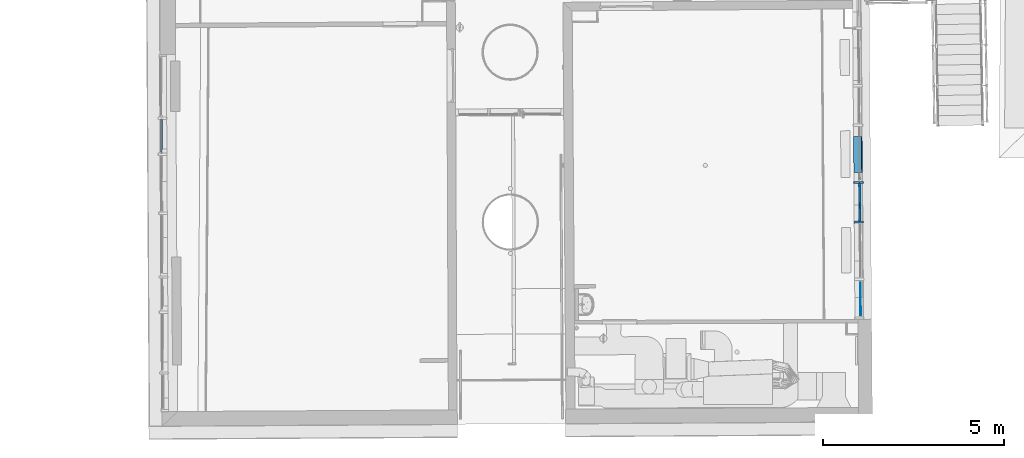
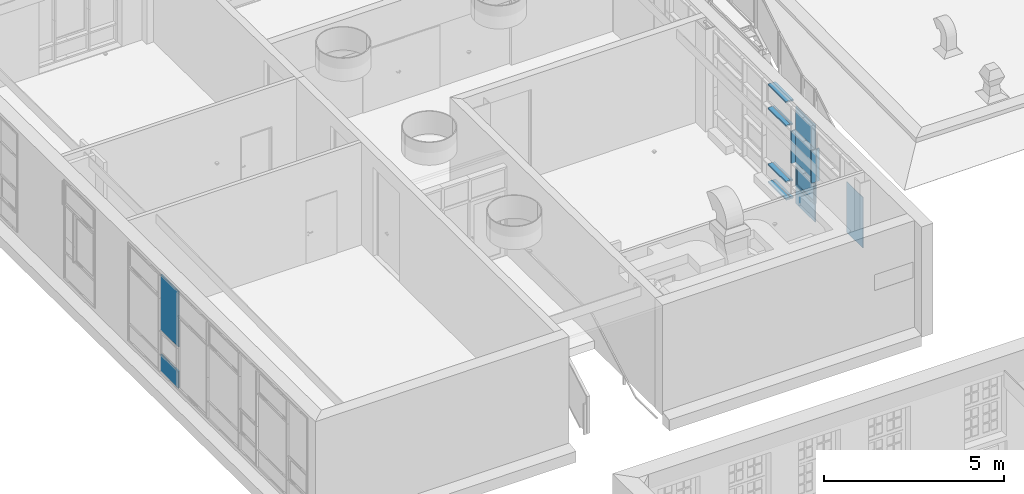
# One storey, part 95 of 158: 14 building element parts, 2 elements without a shape of their own.
"""IFC2X3 building model written with IfcOpenShell, lengths in metres."""

from ifc_helpers import new_model, entity, si_unit, converted_unit, derived_unit, money_unit, direction, frame, origin_with_axes, place, context, subcontext, project, spatial, faceted_brep, material, type_object, element, aggregate, save


model = new_model("IFC2X3")

# Units and contexts
model_context = context("Model", 3, precision=1e-05, world=origin_with_axes(), true_north=direction((0.0, 1.0)))
body_context = subcontext(model_context, "Body", "Model", "MODEL_VIEW")
ifc_project = project(units=[si_unit("LENGTHUNIT", "METRE"), si_unit("AREAUNIT", "SQUARE_METRE"), si_unit("VOLUMEUNIT", "CUBIC_METRE"), converted_unit("PLANEANGLEUNIT", "DEGREE", entity("IfcPlaneAngleMeasure", 0.0174532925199), si_unit("PLANEANGLEUNIT", "RADIAN"), dimensions=[0, 0, 0, 0, 0, 0, 0]), money_unit("EUR"), converted_unit("TIMEUNIT", "Year", entity("IfcTimeMeasure", 31556926.0), si_unit("TIMEUNIT", "SECOND"), dimensions=[0, 0, 1, 0, 0, 0, 0]), si_unit("MASSUNIT", "GRAM", prefix="KILO"), si_unit("THERMODYNAMICTEMPERATUREUNIT", "DEGREE_CELSIUS"), si_unit("LUMINOUSINTENSITYUNIT", "LUMEN"), si_unit("ENERGYUNIT", "JOULE", prefix="MEGA"), derived_unit("THERMALCONDUCTANCEUNIT", [(si_unit("POWERUNIT", "WATT"), 1), (si_unit("LENGTHUNIT", "METRE"), -1), (si_unit("THERMODYNAMICTEMPERATUREUNIT", "KELVIN"), -1)]), derived_unit("SPECIFICHEATCAPACITYUNIT", [(si_unit("ENERGYUNIT", "JOULE"), 1), (si_unit("MASSUNIT", "GRAM", prefix="KILO"), -1), (si_unit("THERMODYNAMICTEMPERATUREUNIT", "KELVIN"), -1)]), derived_unit("MASSDENSITYUNIT", [(si_unit("MASSUNIT", "GRAM", prefix="KILO"), 1), (si_unit("VOLUMEUNIT", "CUBIC_METRE"), -1)])], contexts=[model_context])

# Site, building, storey
site_placement = place(None, origin_with_axes())
site = spatial("IfcSite", under=ifc_project, at=site_placement, Name="Gelände", CompositionType="ELEMENT")
building_placement = place(site_placement, origin_with_axes())
building = spatial("IfcBuilding", under=site, at=building_placement, Name="Gebäude", CompositionType="ELEMENT")
storey_placement = place(building_placement, origin_with_axes())
storey = spatial("IfcBuildingStorey", under=building, at=storey_placement, Name="ERDGESCHOSS", CompositionType="ELEMENT", Elevation=0.0)

# Proxy, building element parts
building_element_proxy_type = type_object("IfcBuildingElementProxyType", Name="Fassadentyp", PredefinedType="NOTDEFINED")
proxy_1_placement = place(storey_placement, frame((-15.5457352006, 40.9565245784, 1.34043905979), z_axis=(0.0, 0.0, 1.0), x_axis=(1.0, 0.0, 0.0)))
proxy_1 = element("IfcBuildingElementProxy", 1, at=proxy_1_placement, inside=storey, type_object=building_element_proxy_type, Name="Fassade-002")
ifc_material_1 = material(Name="53_Metall, Aluminium")
building_element_part_1_placement = place(proxy_1_placement, origin_with_axes())
building_element_part_1 = element("IfcBuildingElementPart", 2, at=building_element_part_1_placement, material=ifc_material_1, Name="53_Metall, Aluminium", context=body_context, shape_type="Brep", body=[
    faceted_brep([(0.0564311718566, -3.39674136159, 0.644999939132), (0.0614310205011, -3.39670245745, 0.644999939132), (0.0695733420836, -4.44313017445, 0.644999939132), (0.0645734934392, -4.44316907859, 0.644999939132), (0.0567813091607, -3.44173999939, 0.689999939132), (0.0617811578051, -3.44170109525, 0.689999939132), (0.0692232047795, -4.39813153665, 0.689999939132), (0.0642233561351, -4.39817044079, 0.689999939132)], [[[0, 1, 2, 3]], [[4, 5, 1, 0]], [[1, 5, 6, 2]], [[3, 2, 6, 7]], [[0, 3, 7, 4]], [[7, 6, 5, 4]]]),
    faceted_brep([(0.0645734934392, -4.44316907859, 0.644999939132), (0.0695733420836, -4.44313017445, 0.644999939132), (0.0695733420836, -4.44313017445, 1.39810935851), (0.0645734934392, -4.44316907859, 1.39810935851), (0.0642233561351, -4.39817044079, 0.689999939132), (0.0692232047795, -4.39813153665, 0.689999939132), (0.0692232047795, -4.39813153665, 1.35310935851), (0.0642233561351, -4.39817044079, 1.35310935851)], [[[0, 1, 2, 3]], [[4, 5, 1, 0]], [[1, 5, 6, 2]], [[3, 2, 6, 7]], [[0, 3, 7, 4]], [[7, 6, 5, 4]]]),
    faceted_brep([(0.0564311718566, -3.39674136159, 1.39810935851), (0.0614310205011, -3.39670245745, 1.39810935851), (0.0617811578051, -3.44170109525, 1.35310935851), (0.0567813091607, -3.44173999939, 1.35310935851), (0.0645734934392, -4.44316907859, 1.39810935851), (0.0695733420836, -4.44313017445, 1.39810935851), (0.0692232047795, -4.39813153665, 1.35310935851), (0.0642233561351, -4.39817044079, 1.35310935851)], [[[0, 1, 2, 3]], [[4, 5, 1, 0]], [[1, 5, 6, 2]], [[3, 2, 6, 7]], [[0, 3, 7, 4]], [[7, 6, 5, 4]]]),
    faceted_brep([(0.0564311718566, -3.39674136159, 0.644999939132), (0.0614310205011, -3.39670245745, 0.644999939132), (0.0617811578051, -3.44170109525, 0.689999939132), (0.0567813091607, -3.44173999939, 0.689999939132), (0.0564311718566, -3.39674136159, 1.39810935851), (0.0614310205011, -3.39670245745, 1.39810935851), (0.0617811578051, -3.44170109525, 1.35310935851), (0.0567813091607, -3.44173999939, 1.35310935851)], [[[0, 1, 2, 3]], [[4, 5, 1, 0]], [[1, 5, 6, 2]], [[3, 2, 6, 7]], [[0, 3, 7, 4]], [[7, 6, 5, 4]]]),
    faceted_brep([(0.00643268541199, -3.39713040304, 0.644999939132), (0.0564311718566, -3.39674136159, 0.644999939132), (0.0645734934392, -4.44316907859, 0.644999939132), (0.0145750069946, -4.44355812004, 0.644999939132), (0.00658830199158, -3.41712979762, 0.664999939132), (0.0565867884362, -3.41674075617, 0.664999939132), (0.0644178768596, -4.42316968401, 0.664999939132), (0.014419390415, -4.42355872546, 0.664999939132)], [[[0, 1, 2, 3]], [[4, 5, 1, 0]], [[1, 5, 6, 2]], [[3, 2, 6, 7]], [[0, 3, 7, 4]], [[7, 6, 5, 4]]]),
    faceted_brep([(0.0145750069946, -4.44355812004, 0.644999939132), (0.0645734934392, -4.44316907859, 0.644999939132), (0.0645734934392, -4.44316907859, 1.39810935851), (0.0145750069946, -4.44355812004, 1.39810935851), (0.014419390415, -4.42355872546, 0.664999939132), (0.0644178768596, -4.42316968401, 0.664999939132), (0.0644178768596, -4.42316968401, 1.37810935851), (0.014419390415, -4.42355872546, 1.37810935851)], [[[0, 1, 2, 3]], [[4, 5, 1, 0]], [[1, 5, 6, 2]], [[3, 2, 6, 7]], [[0, 3, 7, 4]], [[7, 6, 5, 4]]]),
    faceted_brep([(0.00643268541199, -3.39713040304, 1.39810935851), (0.0564311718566, -3.39674136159, 1.39810935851), (0.0565867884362, -3.41674075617, 1.37810935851), (0.00658830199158, -3.41712979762, 1.37810935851), (0.0145750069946, -4.44355812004, 1.39810935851), (0.0645734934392, -4.44316907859, 1.39810935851), (0.0644178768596, -4.42316968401, 1.37810935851), (0.014419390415, -4.42355872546, 1.37810935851)], [[[0, 1, 2, 3]], [[4, 5, 1, 0]], [[1, 5, 6, 2]], [[3, 2, 6, 7]], [[0, 3, 7, 4]], [[7, 6, 5, 4]]]),
    faceted_brep([(0.00643268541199, -3.39713040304, 0.644999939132), (0.0564311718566, -3.39674136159, 0.644999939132), (0.0565867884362, -3.41674075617, 0.664999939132), (0.00658830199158, -3.41712979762, 0.664999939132), (0.00643268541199, -3.39713040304, 1.39810935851), (0.0564311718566, -3.39674136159, 1.39810935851), (0.0565867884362, -3.41674075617, 1.37810935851), (0.00658830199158, -3.41712979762, 1.37810935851)], [[[0, 1, 2, 3]], [[4, 5, 1, 0]], [[1, 5, 6, 2]], [[3, 2, 6, 7]], [[0, 3, 7, 4]], [[7, 6, 5, 4]]]),
    faceted_brep([(0.00631597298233, -3.38213085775, 0.629999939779), (0.046314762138, -3.3818196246, 0.629999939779), (0.0546905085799, -4.45824643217, 0.629999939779), (0.0146917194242, -4.45855766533, 0.629999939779), (0.00643268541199, -3.39713040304, 0.644999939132), (0.0464314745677, -3.39681916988, 0.644999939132), (0.0545737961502, -4.44324688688, 0.644999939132), (0.0145750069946, -4.44355812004, 0.644999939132)], [[[0, 1, 2, 3]], [[4, 5, 1, 0]], [[1, 5, 6, 2]], [[3, 2, 6, 7]], [[0, 3, 7, 4]], [[7, 6, 5, 4]]]),
    faceted_brep([(0.0146917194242, -4.45855766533, 0.629999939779), (0.0546905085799, -4.45824643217, 0.629999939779), (0.0546905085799, -4.45824643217, 1.41310935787), (0.0146917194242, -4.45855766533, 1.41310935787), (0.0145750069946, -4.44355812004, 0.644999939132), (0.0545737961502, -4.44324688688, 0.644999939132), (0.0545737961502, -4.44324688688, 1.39810935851), (0.0145750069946, -4.44355812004, 1.39810935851)], [[[0, 1, 2, 3]], [[4, 5, 1, 0]], [[1, 5, 6, 2]], [[3, 2, 6, 7]], [[0, 3, 7, 4]], [[7, 6, 5, 4]]]),
    faceted_brep([(0.0146917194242, -4.45855766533, 1.41310935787), (0.0546905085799, -4.45824643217, 1.41310935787), (0.046314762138, -3.3818196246, 1.41310935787), (0.00631597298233, -3.38213085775, 1.41310935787), (0.0145750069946, -4.44355812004, 1.39810935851), (0.0545737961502, -4.44324688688, 1.39810935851), (0.0464314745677, -3.39681916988, 1.39810935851), (0.00643268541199, -3.39713040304, 1.39810935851)], [[[0, 1, 2, 3]], [[4, 5, 1, 0]], [[1, 5, 6, 2]], [[3, 2, 6, 7]], [[0, 3, 7, 4]], [[7, 6, 5, 4]]]),
    faceted_brep([(0.00631597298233, -3.38213085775, 1.41310935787), (0.046314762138, -3.3818196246, 1.41310935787), (0.046314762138, -3.3818196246, 0.629999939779), (0.00631597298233, -3.38213085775, 0.629999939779), (0.00643268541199, -3.39713040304, 1.39810935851), (0.0464314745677, -3.39681916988, 1.39810935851), (0.0464314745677, -3.39681916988, 0.644999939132), (0.00643268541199, -3.39713040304, 0.644999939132)], [[[0, 1, 2, 3]], [[4, 5, 1, 0]], [[1, 5, 6, 2]], [[3, 2, 6, 7]], [[0, 3, 7, 4]], [[7, 6, 5, 4]]]),
    faceted_brep([(0.0569369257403, -3.46173939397, 0.709999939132), (0.0569369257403, -3.46173939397, 1.33310935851), (0.0019385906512, -3.46216733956, 1.33310935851), (0.0019385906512, -3.46216733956, 0.709999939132), (0.0565867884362, -3.41674075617, 0.664999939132), (0.0565867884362, -3.41674075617, 1.37810935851), (0.00158845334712, -3.41716870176, 1.37810935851), (0.00158845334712, -3.41716870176, 0.664999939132)], [[[0, 1, 2, 3]], [[0, 4, 5, 1]], [[1, 5, 6, 2]], [[3, 2, 6, 7]], [[4, 0, 3, 7]], [[5, 4, 7, 6]]]),
    faceted_brep([(0.0644178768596, -4.42316968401, 0.664999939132), (0.0644178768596, -4.42316968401, 1.37810935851), (0.00941954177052, -4.42359762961, 1.37810935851), (0.00941954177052, -4.42359762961, 0.664999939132), (0.0640677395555, -4.37817104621, 0.709999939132), (0.0640677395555, -4.37817104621, 1.33310935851), (0.00906940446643, -4.37859899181, 1.33310935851), (0.00906940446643, -4.37859899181, 0.709999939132)], [[[0, 1, 2, 3]], [[0, 4, 5, 1]], [[1, 5, 6, 2]], [[3, 2, 6, 7]], [[4, 0, 3, 7]], [[5, 4, 7, 6]]]),
    faceted_brep([(0.0644178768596, -4.42316968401, 0.664999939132), (0.0640677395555, -4.37817104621, 0.709999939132), (0.00906940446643, -4.37859899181, 0.709999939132), (0.00941954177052, -4.42359762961, 0.664999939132), (0.0565867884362, -3.41674075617, 0.664999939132), (0.0569369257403, -3.46173939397, 0.709999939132), (0.0019385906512, -3.46216733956, 0.709999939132), (0.00158845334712, -3.41716870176, 0.664999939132)], [[[0, 1, 2, 3]], [[0, 4, 5, 1]], [[1, 5, 6, 2]], [[3, 2, 6, 7]], [[4, 0, 3, 7]], [[5, 4, 7, 6]]]),
    faceted_brep([(0.0565867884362, -3.41674075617, 1.37810935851), (0.0569369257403, -3.46173939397, 1.33310935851), (0.0019385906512, -3.46216733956, 1.33310935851), (0.00158845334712, -3.41716870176, 1.37810935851), (0.0644178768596, -4.42316968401, 1.37810935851), (0.0640677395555, -4.37817104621, 1.33310935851), (0.00906940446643, -4.37859899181, 1.33310935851), (0.00941954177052, -4.42359762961, 1.37810935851)], [[[0, 1, 2, 3]], [[0, 4, 5, 1]], [[1, 5, 6, 2]], [[3, 2, 6, 7]], [[4, 0, 3, 7]], [[5, 4, 7, 6]]]),
])
ifc_material_2 = material(Name="45_Glas, Normalglas")
building_element_part_2_placement = place(proxy_1_placement, origin_with_axes())
building_element_part_2 = element("IfcBuildingElementPart", 3, at=building_element_part_2_placement, material=ifc_material_2, Name="45_Glas, Normalglas", context=body_context, shape_type="Brep", body=[
    faceted_brep([(0.0469372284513, -3.46181720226, 0.709999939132), (0.0540680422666, -4.3782488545, 0.709999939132), (0.0380685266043, -4.37837334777, 0.709999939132), (0.0309377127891, -3.46194169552, 0.709999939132), (0.0469372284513, -3.46181720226, 1.33310935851), (0.0540680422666, -4.3782488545, 1.33310935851), (0.0380685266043, -4.37837334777, 1.33310935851), (0.0309377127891, -3.46194169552, 1.33310935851)], [[[0, 1, 2, 3]], [[0, 4, 5, 1]], [[1, 5, 6, 2]], [[3, 2, 6, 7]], [[4, 0, 3, 7]], [[5, 4, 7, 6]]]),
])
building_element_part_3_placement = place(proxy_1_placement, origin_with_axes())
building_element_part_3 = element("IfcBuildingElementPart", 4, at=building_element_part_3_placement, material=ifc_material_2, Name="45_Glas, Normalglas", context=body_context, shape_type="Brep", body=[
    faceted_brep([(0.0146917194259, -4.45855766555, 0.609999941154), (0.0546905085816, -4.45824643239, 0.609999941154), (0.0511226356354, -3.99971367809, 0.609999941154), (0.0111238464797, -4.00002491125, 0.609999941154), (0.0146917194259, -4.45855766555, 0.0349999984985), (0.0546905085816, -4.45824643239, 0.0349999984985), (0.0511226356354, -3.99971367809, 0.0349999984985), (0.046314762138, -3.3818196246, 0.0349999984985), (0.046314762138, -3.3818196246, 0.609999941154), (0.00631597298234, -3.38213085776, 0.609999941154), (0.00631597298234, -3.38213085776, 0.0349999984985), (0.0111238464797, -4.00002491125, 0.0349999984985)], [[[0, 1, 2, 3]], [[4, 5, 1, 0]], [[1, 5, 6, 7, 8, 2]], [[3, 2, 8, 9]], [[0, 3, 9, 10, 11, 4]], [[11, 6, 5, 4]], [[10, 7, 6, 11]], [[9, 8, 7, 10]]]),
])
building_element_part_4_placement = place(proxy_1_placement, origin_with_axes())
building_element_part_4 = element("IfcBuildingElementPart", 5, at=building_element_part_4_placement, material=ifc_material_2, Name="45_Glas, Normalglas", context=body_context, shape_type="Brep", body=[
    faceted_brep([(0.0146917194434, -4.45855766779, 2.50999994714), (0.0546905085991, -4.45824643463, 2.50999994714), (0.051122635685, -3.99971368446, 2.50999994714), (0.0111238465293, -4.00002491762, 2.50999994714), (0.0146917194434, -4.45855766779, 1.43310934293), (0.0546905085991, -4.45824643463, 1.43310934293), (0.051122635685, -3.99971368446, 1.43310934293), (0.0463147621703, -3.38181962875, 1.43310935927), (0.0463147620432, -3.38181961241, 2.50999994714), (0.00631597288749, -3.38213084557, 2.50999994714), (0.00631597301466, -3.38213086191, 1.43310935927), (0.0111238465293, -4.00002491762, 1.43310934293)], [[[0, 1, 2, 3]], [[4, 5, 1, 0]], [[1, 5, 6, 7, 8, 2]], [[3, 2, 8, 9]], [[0, 3, 9, 10, 11, 4]], [[11, 6, 5, 4]], [[10, 7, 6, 11]], [[9, 8, 7, 10]]]),
])
building_element_part_5_placement = place(proxy_1_placement, origin_with_axes())
building_element_part_5 = element("IfcBuildingElementPart", 6, at=building_element_part_5_placement, material=ifc_material_2, Name="45_Glas, Normalglas", context=body_context, shape_type="Brep", body=[
    faceted_brep([(0.0146917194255, -4.45855766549, 3.31499987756), (0.0546905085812, -4.45824643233, 3.31499987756), (0.0511226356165, -3.99971367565, 3.31499987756), (0.0111238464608, -4.00002490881, 3.31499987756), (0.0146917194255, -4.45855766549, 2.52999993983), (0.0546905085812, -4.45824643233, 2.52999993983), (0.0511226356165, -3.99971367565, 2.52999993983), (0.0463147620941, -3.38181961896, 2.52999993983), (0.0463147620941, -3.38181961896, 3.31499987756), (0.00631597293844, -3.38213085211, 3.31499987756), (0.00631597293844, -3.38213085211, 2.52999993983), (0.0111238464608, -4.00002490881, 2.52999993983)], [[[0, 1, 2, 3]], [[4, 5, 1, 0]], [[1, 5, 6, 7, 8, 2]], [[3, 2, 8, 9]], [[0, 3, 9, 10, 11, 4]], [[11, 6, 5, 4]], [[10, 7, 6, 11]], [[9, 8, 7, 10]]]),
])
building_element_part_6_placement = place(proxy_1_placement, origin_with_axes())
building_element_part_6 = element("IfcBuildingElementPart", 7, at=building_element_part_6_placement, material=ifc_material_2, Name="45_Glas, Normalglas", context=body_context, shape_type="Brep", body=[
    faceted_brep([(0.0678002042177, -6.14306675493, 0.709999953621), (0.0748025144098, -7.04298349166, 0.709999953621), (0.0588029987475, -7.04310798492, 0.709999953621), (0.0518006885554, -6.14319124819, 0.709999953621), (0.0678002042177, -6.14306675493, 2.4299999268), (0.0748025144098, -7.04298349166, 2.4299999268), (0.0588029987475, -7.04310798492, 2.4299999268), (0.0518006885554, -6.14319124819, 2.4299999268)], [[[0, 1, 2, 3]], [[0, 4, 5, 1]], [[1, 5, 6, 2]], [[3, 2, 6, 7]], [[4, 0, 3, 7]], [[5, 4, 7, 6]]]),
])
building_element_part_7_placement = place(proxy_1_placement, origin_with_axes())
building_element_part_7 = element("IfcBuildingElementPart", 8, at=building_element_part_7_placement, material=ifc_material_1, Name="53_Metall, Aluminium", context=body_context, shape_type="Brep", body=[
    faceted_brep([(0.0141207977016, -3.09997434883, 0.035), (0.0141207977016, -3.09997434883, 0.05), (-0.125874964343, -3.10106366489, 0.05), (-0.125874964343, -3.10106366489, 0.0), (0.114117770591, -3.09919626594, 0.0), (0.114117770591, -3.09919626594, 0.05), (0.0341201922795, -3.09981873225, 0.05), (0.0341201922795, -3.09981873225, 0.035), (0.00633996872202, -2.10000461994, 0.035), (0.00633996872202, -2.10000461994, 0.05), (-0.133655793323, -2.101093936, 0.05), (-0.133655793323, -2.101093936, 0.0), (0.106336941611, -2.09922653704, 0.0), (0.106336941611, -2.09922653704, 0.05), (0.0263393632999, -2.09984900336, 0.05), (0.0263393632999, -2.09984900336, 0.035)], [[[0, 1, 2, 3, 4, 5, 6, 7]], [[0, 8, 9, 1]], [[9, 10, 2, 1]], [[10, 11, 3, 2]], [[11, 12, 4, 3]], [[12, 13, 5, 4]], [[6, 5, 13, 14]], [[14, 15, 7, 6]], [[7, 15, 8, 0]], [[8, 15, 14, 13, 12, 11, 10, 9]]]),
])
building_element_part_8_placement = place(proxy_1_placement, origin_with_axes())
building_element_part_8 = element("IfcBuildingElementPart", 9, at=building_element_part_8_placement, material=ifc_material_1, Name="53_Metall, Aluminium", context=body_context, shape_type="Brep", body=[
    faceted_brep([(0.0163156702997, -3.38205305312, 2.51999994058), (0.0363150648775, -3.38189743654, 2.51999994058), (0.0364317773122, -3.39689698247, 2.51999994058), (0.131428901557, -3.39615780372, 2.51999994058), (0.131039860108, -3.34615931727, 2.51999994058), (0.0360427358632, -3.34689849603, 2.51999994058), (0.0361594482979, -3.36189804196, 2.51999994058), (0.0161600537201, -3.36205365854, 2.51999994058), (0.0160433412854, -3.34705411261, 2.51999994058), (-0.12395242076, -3.34814342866, 2.51999994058), (-0.123563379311, -3.39814191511, 2.51999994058), (0.0164323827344, -3.39705259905, 2.51999994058), (0.0163156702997, -3.38205305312, 1.42310935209), (0.0363150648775, -3.38189743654, 1.42310935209), (0.0364317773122, -3.39689698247, 1.42310935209), (0.131428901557, -3.39615780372, 1.42310935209), (0.131039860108, -3.34615931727, 1.42310935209), (0.0360427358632, -3.34689849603, 1.42310935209), (0.0361594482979, -3.36189804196, 1.42310935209), (0.0161600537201, -3.36205365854, 1.42310935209), (0.0160433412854, -3.34705411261, 1.42310935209), (-0.12395242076, -3.34814342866, 1.42310935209), (-0.123563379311, -3.39814191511, 1.42310935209), (0.0164323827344, -3.39705259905, 1.42310935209)], [[[0, 1, 2, 3, 4, 5, 6, 7, 8, 9, 10, 11]], [[0, 12, 13, 1]], [[1, 13, 14, 2]], [[14, 15, 3, 2]], [[3, 15, 16, 4]], [[17, 5, 4, 16]], [[5, 17, 18, 6]], [[7, 6, 18, 19]], [[8, 7, 19, 20]], [[8, 20, 21, 9]], [[9, 21, 22, 10]], [[11, 10, 22, 23]], [[11, 23, 12, 0]], [[13, 12, 23, 22, 21, 20, 19, 18, 17, 16, 15, 14]]]),
])
building_element_part_9_placement = place(proxy_1_placement, origin_with_axes())
building_element_part_9 = element("IfcBuildingElementPart", 10, at=building_element_part_9_placement, material=ifc_material_1, Name="53_Metall, Aluminium", context=body_context, shape_type="Brep", body=[
    faceted_brep([(0.0141207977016, -3.09997434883, 0.60999994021), (0.0341201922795, -3.09981873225, 0.60999994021), (0.0341201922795, -3.09981873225, 0.59499994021), (0.094118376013, -3.09935188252, 0.59499994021), (0.094118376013, -3.09935188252, 0.64499994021), (0.0341201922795, -3.09981873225, 0.64499994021), (0.0341201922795, -3.09981873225, 0.62999994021), (0.0141207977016, -3.09997434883, 0.62999994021), (0.0141207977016, -3.09997434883, 0.64499994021), (-0.125874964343, -3.10106366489, 0.64499994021), (-0.125874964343, -3.10106366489, 0.59499994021), (0.0141207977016, -3.09997434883, 0.59499994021), (0.00633996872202, -2.10000461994, 0.60999994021), (0.0263393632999, -2.09984900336, 0.60999994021), (0.0263393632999, -2.09984900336, 0.59499994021), (0.0863375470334, -2.09938215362, 0.59499994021), (0.0863375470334, -2.09938215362, 0.64499994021), (0.0263393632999, -2.09984900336, 0.64499994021), (0.0263393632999, -2.09984900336, 0.62999994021), (0.00633996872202, -2.10000461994, 0.62999994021), (0.00633996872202, -2.10000461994, 0.64499994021), (-0.133655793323, -2.101093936, 0.64499994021), (-0.133655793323, -2.101093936, 0.59499994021), (0.00633996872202, -2.10000461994, 0.59499994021)], [[[0, 1, 2, 3, 4, 5, 6, 7, 8, 9, 10, 11]], [[0, 12, 13, 1]], [[1, 13, 14, 2]], [[14, 15, 3, 2]], [[3, 15, 16, 4]], [[17, 5, 4, 16]], [[5, 17, 18, 6]], [[7, 6, 18, 19]], [[8, 7, 19, 20]], [[8, 20, 21, 9]], [[9, 21, 22, 10]], [[11, 10, 22, 23]], [[11, 23, 12, 0]], [[13, 12, 23, 22, 21, 20, 19, 18, 17, 16, 15, 14]]]),
])
building_element_part_10_placement = place(proxy_1_placement, origin_with_axes())
building_element_part_10 = element("IfcBuildingElementPart", 11, at=building_element_part_10_placement, material=ifc_material_1, Name="53_Metall, Aluminium", context=body_context, shape_type="Brep", body=[
    faceted_brep([(0.0141207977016, -3.09997434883, 2.50999994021), (0.0341201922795, -3.09981873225, 2.50999994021), (0.0341201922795, -3.09981873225, 2.49499994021), (0.094118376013, -3.09935188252, 2.49499994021), (0.094118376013, -3.09935188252, 2.54499994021), (0.0341201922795, -3.09981873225, 2.54499994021), (0.0341201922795, -3.09981873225, 2.52999994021), (0.0141207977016, -3.09997434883, 2.52999994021), (0.0141207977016, -3.09997434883, 2.54499994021), (-0.125874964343, -3.10106366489, 2.54499994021), (-0.125874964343, -3.10106366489, 2.49499994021), (0.0141207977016, -3.09997434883, 2.49499994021), (0.00633996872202, -2.10000461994, 2.50999994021), (0.0263393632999, -2.09984900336, 2.50999994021), (0.0263393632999, -2.09984900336, 2.49499994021), (0.0863375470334, -2.09938215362, 2.49499994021), (0.0863375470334, -2.09938215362, 2.54499994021), (0.0263393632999, -2.09984900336, 2.54499994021), (0.0263393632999, -2.09984900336, 2.52999994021), (0.00633996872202, -2.10000461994, 2.52999994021), (0.00633996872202, -2.10000461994, 2.54499994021), (-0.133655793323, -2.101093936, 2.54499994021), (-0.133655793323, -2.101093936, 2.49499994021), (0.00633996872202, -2.10000461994, 2.49499994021)], [[[0, 1, 2, 3, 4, 5, 6, 7, 8, 9, 10, 11]], [[0, 12, 13, 1]], [[1, 13, 14, 2]], [[14, 15, 3, 2]], [[3, 15, 16, 4]], [[17, 5, 4, 16]], [[5, 17, 18, 6]], [[7, 6, 18, 19]], [[8, 7, 19, 20]], [[8, 20, 21, 9]], [[9, 21, 22, 10]], [[11, 10, 22, 23]], [[11, 23, 12, 0]], [[13, 12, 23, 22, 21, 20, 19, 18, 17, 16, 15, 14]]]),
])
building_element_part_11_placement = place(proxy_1_placement, origin_with_axes())
building_element_part_11 = element("IfcBuildingElementPart", 12, at=building_element_part_11_placement, material=ifc_material_1, Name="53_Metall, Aluminium", context=body_context, shape_type="Brep", body=[
    faceted_brep([(0.0248470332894, -4.47847925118, 2.51999993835), (0.0448464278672, -4.4783236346, 2.51999993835), (0.0449631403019, -4.49332318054, 2.51999993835), (0.139960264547, -4.49258400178, 2.51999993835), (0.139571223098, -4.44258551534, 2.51999993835), (0.0445740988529, -4.44332469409, 2.51999993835), (0.0446908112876, -4.45832424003, 2.51999993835), (0.0246914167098, -4.45847985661, 2.51999993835), (0.0245747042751, -4.44348031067, 2.51999993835), (-0.11542105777, -4.44456962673, 2.51999993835), (-0.115032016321, -4.49456811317, 2.51999993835), (0.0249637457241, -4.49347879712, 2.51999993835), (0.0248470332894, -4.47847925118, 1.42310934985), (0.0448464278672, -4.4783236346, 1.42310934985), (0.0449631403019, -4.49332318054, 1.42310934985), (0.139960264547, -4.49258400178, 1.42310934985), (0.139571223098, -4.44258551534, 1.42310934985), (0.0445740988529, -4.44332469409, 1.42310934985), (0.0446908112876, -4.45832424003, 1.42310934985), (0.0246914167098, -4.45847985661, 1.42310934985), (0.0245747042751, -4.44348031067, 1.42310934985), (-0.11542105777, -4.44456962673, 1.42310934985), (-0.115032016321, -4.49456811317, 1.42310934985), (0.0249637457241, -4.49347879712, 1.42310934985)], [[[0, 1, 2, 3, 4, 5, 6, 7, 8, 9, 10, 11]], [[0, 12, 13, 1]], [[1, 13, 14, 2]], [[14, 15, 3, 2]], [[3, 15, 16, 4]], [[17, 5, 4, 16]], [[5, 17, 18, 6]], [[7, 6, 18, 19]], [[8, 7, 19, 20]], [[8, 20, 21, 9]], [[9, 21, 22, 10]], [[11, 10, 22, 23]], [[11, 23, 12, 0]], [[13, 12, 23, 22, 21, 20, 19, 18, 17, 16, 15, 14]]]),
])
building_element_part_12_placement = place(proxy_1_placement, origin_with_axes())
building_element_part_12 = element("IfcBuildingElementPart", 13, at=building_element_part_12_placement, material=ifc_material_1, Name="53_Metall, Aluminium", context=body_context, shape_type="Brep", body=[
    faceted_brep([(0.0141207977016, -3.09997434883, 3.31499987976), (0.0341201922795, -3.09981873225, 3.31499987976), (0.0341201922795, -3.09981873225, 3.29999987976), (0.114117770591, -3.09919626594, 3.29999987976), (0.114117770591, -3.09919626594, 3.34999987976), (-0.125874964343, -3.10106366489, 3.34999987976), (-0.125874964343, -3.10106366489, 3.29999987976), (0.0141207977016, -3.09997434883, 3.29999987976), (0.00633996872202, -2.10000461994, 3.31499987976), (0.0263393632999, -2.09984900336, 3.31499987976), (0.0263393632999, -2.09984900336, 3.29999987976), (0.106336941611, -2.09922653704, 3.29999987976), (0.106336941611, -2.09922653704, 3.34999987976), (-0.133655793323, -2.101093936, 3.34999987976), (-0.133655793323, -2.101093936, 3.29999987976), (0.00633996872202, -2.10000461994, 3.29999987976)], [[[0, 1, 2, 3, 4, 5, 6, 7]], [[1, 0, 8, 9]], [[10, 2, 1, 9]], [[2, 10, 11, 3]], [[12, 4, 3, 11]], [[13, 5, 4, 12]], [[14, 6, 5, 13]], [[15, 7, 6, 14]], [[0, 7, 15, 8]], [[8, 15, 14, 13, 12, 11, 10, 9]]]),
])
aggregate(proxy_1, [building_element_part_1, building_element_part_2, building_element_part_3, building_element_part_4, building_element_part_5, building_element_part_6, building_element_part_7, building_element_part_8, building_element_part_9, building_element_part_10, building_element_part_11, building_element_part_12])

proxy_2_placement = place(storey_placement, frame((-34.8120286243, 34.4012060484, 1.3404389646), z_axis=(0.0, 0.0, 1.0), x_axis=(1.0, 0.0, 0.0)))
proxy_2 = element("IfcBuildingElementProxy", 14, at=proxy_2_placement, inside=storey, type_object=building_element_proxy_type, Name="Fassade-002")
building_element_part_13_placement = place(proxy_2_placement, origin_with_axes())
building_element_part_13 = element("IfcBuildingElementPart", 15, at=building_element_part_13_placement, material=ifc_material_2, Name="45_Glas, Normalglas", context=body_context, shape_type="Brep", body=[
    faceted_brep([(-0.00330320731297, 3.97344683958, 0.610000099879), (-0.0041130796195, 4.11153671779, 0.610000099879), (-0.0441123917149, 4.11130212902, 0.610000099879), (-0.0433025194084, 3.97321225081, 0.610000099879), (-0.00330320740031, 3.97344685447, 0.0350000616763), (-0.0041130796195, 4.11153671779, 0.0350000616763), (-0.0090472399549, 4.95285156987, 0.0350000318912), (-0.0090472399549, 4.95285156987, 0.610000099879), (-0.0490465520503, 4.9526169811, 0.610000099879), (-0.0490465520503, 4.9526169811, 0.0350000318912), (-0.0441123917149, 4.11130212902, 0.0350000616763), (-0.0433025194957, 3.9732122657, 0.0350000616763)], [[[0, 1, 2, 3]], [[0, 4, 5, 6, 7, 1]], [[1, 7, 8, 2]], [[3, 2, 8, 9, 10, 11]], [[4, 0, 3, 11]], [[5, 4, 11, 10]], [[6, 5, 10, 9]], [[7, 6, 9, 8]]]),
])
building_element_part_14_placement = place(proxy_2_placement, origin_with_axes())
building_element_part_14 = element("IfcBuildingElementPart", 16, at=building_element_part_14_placement, material=ifc_material_2, Name="45_Glas, Normalglas", context=body_context, shape_type="Brep", body=[
    faceted_brep([(-0.0033032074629, 3.97344686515, 3.31499999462), (-0.00411307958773, 4.11153671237, 3.31499999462), (-0.0441123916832, 4.1113021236, 3.31499999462), (-0.0433025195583, 3.97321227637, 3.31499999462), (-0.0033032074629, 3.97344686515, 2.52000009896), (-0.00330320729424, 3.97344683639, 1.43000009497), (-0.00411307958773, 4.11153671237, 1.43000009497), (-0.00898769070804, 4.94269793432, 1.43000009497), (-0.00898769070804, 4.94269793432, 1.4200000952), (-0.00904723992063, 4.95285156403, 1.4200000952), (-0.00904723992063, 4.95285156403, 2.52000009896), (-0.00904723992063, 4.95285156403, 3.31499999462), (-0.0490465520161, 4.95261697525, 3.31499999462), (-0.0490465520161, 4.95261697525, 2.52000009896), (-0.0490465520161, 4.95261697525, 1.4200000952), (-0.0489870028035, 4.94246334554, 1.4200000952), (-0.0489870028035, 4.94246334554, 1.43000009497), (-0.0441123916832, 4.1113021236, 1.43000009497), (-0.0433025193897, 3.97321224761, 1.43000009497), (-0.0433025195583, 3.97321227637, 2.52000009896)], [[[0, 1, 2, 3]], [[0, 4, 5, 6, 7, 8, 9, 10, 11, 1]], [[1, 11, 12, 2]], [[3, 2, 12, 13, 14, 15, 16, 17, 18, 19]], [[4, 0, 3, 19]], [[5, 4, 19, 18]], [[6, 5, 18, 17]], [[7, 6, 17, 16]], [[8, 7, 16, 15]], [[9, 8, 15, 14]], [[10, 9, 14, 13]], [[11, 10, 13, 12]]]),
])
aggregate(proxy_2, [building_element_part_13, building_element_part_14])

save(model, "model.ifc")
